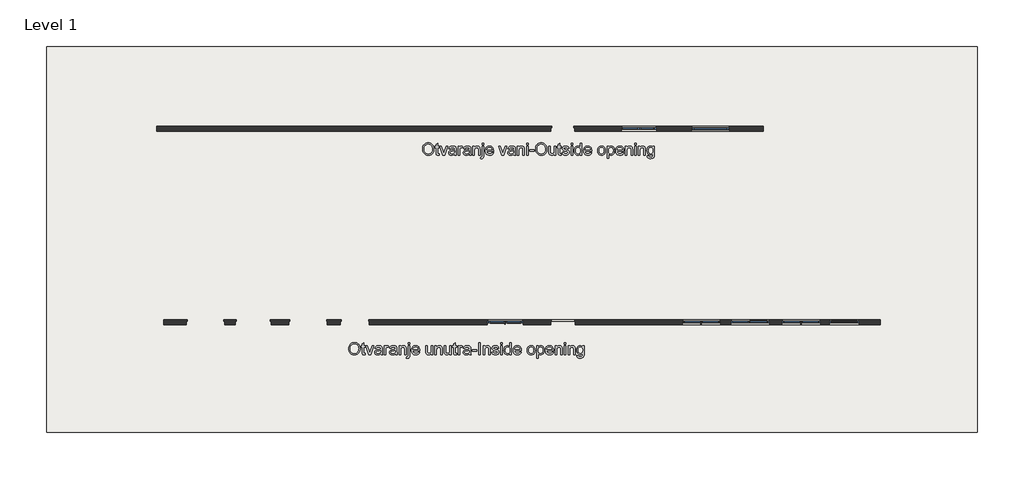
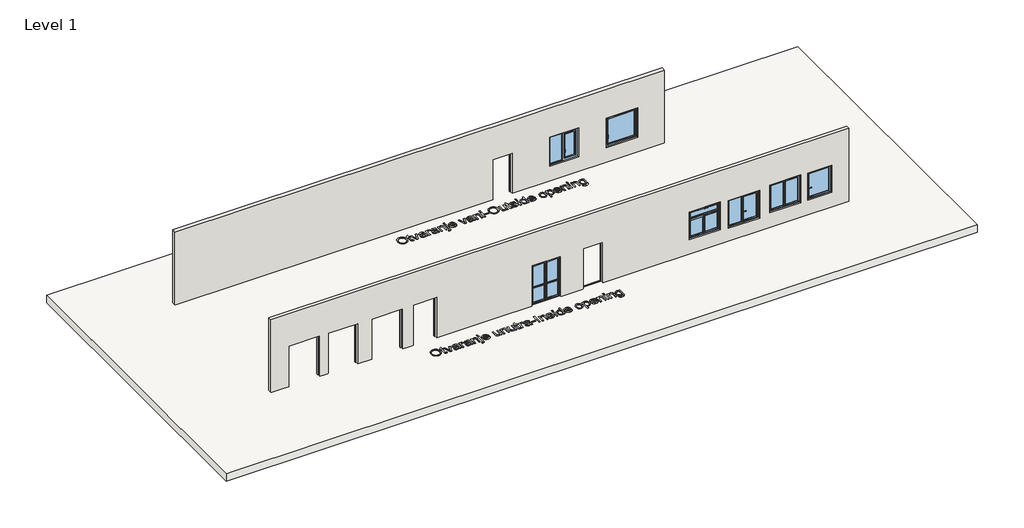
# One storey, incomplete: 7 windows, 2 proxies, 2 walls, 1 slab.
"""IFC4 building model written with IfcOpenShell, lengths in millimetres."""

from ifc_helpers import new_model, si_unit, frame, origin, place, context, project, spatial, polyline, outline, extrude, faceted_brep, transform, mapped, element, save
from components import tekst_tekst_52195aea, tekst_tekst_2_4f43fea5, window_d7b7a2f2, window_418a830e, window_308ad6bf, window_99a33fc7, window_7ea07653, window_e15212f5, window_3340940a

model = new_model("IFC4")

# Units and contexts
model_context = context("Model", 3, world=origin())
ifc_project = project(units=[si_unit("LENGTHUNIT", "METRE", prefix="MILLI")], contexts=[model_context])

# Site, building, storey
site = spatial("IfcSite", under=ifc_project)
building = spatial("IfcBuilding", under=site)
storey = spatial("IfcBuildingStorey", under=building, Name="Level 1", Elevation=0.0)

# Proxies
placement = place(None, origin())
tekst_tekst_shape = tekst_tekst_52195aea(model_context)
element("IfcBuildingElementProxy", 1, Name="tekst : tekst", ObjectType="tekst : tekst", at=placement, inside=storey, context=model_context, shape_type="MappedRepresentation", body=[
    mapped(tekst_tekst_shape, transform((-679.0711195, 9208.5752204, 0.0), x_axis=(1.0, 0.0, 0.0), y_axis=(0.0, 1.0, 0.0), z_axis=(0.0, 0.0, 1.0))),
])
tekst_tekst_2_shape = tekst_tekst_2_4f43fea5(model_context)
element("IfcBuildingElementProxy", 2, Name="tekst : tekst 2", ObjectType="tekst : tekst 2", at=placement, inside=storey, context=model_context, shape_type="MappedRepresentation", body=[
    mapped(tekst_tekst_2_shape, transform((-3776.147874, 845.4866489, 0.0), x_axis=(1.0, 0.0, 0.0), y_axis=(0.0, 1.0, 0.0), z_axis=(0.0, 0.0, 1.0))),
])

# Slab
element("IfcSlab", 3, ObjectType="Generic Floor - 400mm", at=placement, inside=storey, context=model_context, shape_type="SweptSolid", body=[
    extrude(outline(polyline([(21202.0200923, 13757.5691382), (21202.0200923, -2391.4247796), (-17797.9799077, -2391.4247796), (-17797.9799077, 13757.5691382), (21202.0200923, 13757.5691382)])), frame((0.0, 0.0, -400.0), z_axis=(0.0, 0.0, 1.0), x_axis=(1.0, 0.0, 0.0)), (0.0, 0.0, 1.0), 400.0),
])

# Walls
element("IfcWall", 4, ObjectType="Generic - 200mm", at=placement, inside=storey, context=model_context, shape_type="Brep", body=[
    faceted_brep([(-12879.0711195, 2308.5752204, 0.0), (-12879.0711195, 2308.5752204, 4000.0), (17120.9288805, 2308.5752204, 4000.0), (17120.9288805, 2308.5752204, 0.0), (-4309.0711195, 2308.5752204, 0.0), (-4309.0711195, 2308.5752204, 2170.0), (-5449.0711195, 2308.5752204, 2170.0), (-5449.0711195, 2308.5752204, 0.0), (-6069.0711195, 2308.5752204, 0.0), (-6069.0711195, 2308.5752204, 2170.0), (-7609.0711195, 2308.5752204, 2170.0), (-7609.0711195, 2308.5752204, 0.0), (-8419.0711195, 2308.5752204, 0.0), (-8419.0711195, 2308.5752204, 2180.0), (-9859.0711195, 2308.5752204, 2180.0), (-9859.0711195, 2308.5752204, 0.0), (-10369.0711195, 2308.5752204, 0.0), (-10369.0711195, 2308.5752204, 2180.0), (-11909.0711195, 2308.5752204, 2180.0), (-11909.0711195, 2308.5752204, 0.0), (15015.9288805, 2308.5752204, 2280.0), (15015.9288805, 2308.5752204, 810.0), (16225.9288805, 2308.5752204, 810.0), (16225.9288805, 2308.5752204, 2280.0), (14610.9288805, 2308.5752204, 820.0), (14610.9288805, 2308.5752204, 2300.0), (13030.9288805, 2308.5752204, 2300.0), (13030.9288805, 2308.5752204, 820.0), (10890.9288805, 2308.5752204, 2200.0), (10890.9288805, 2308.5752204, 720.0), (12470.9288805, 2308.5752204, 720.0), (12470.9288805, 2308.5752204, 2200.0), (2160.9288805, 2308.5752204, 20.0), (2160.9288805, 2308.5752204, 2200.0), (680.9288805, 2308.5752204, 2200.0), (680.9288805, 2308.5752204, 20.0), (3350.9288805, 2308.5752204, 2200.0), (3350.9288805, 2308.5752204, 20.0), (4330.9288805, 2308.5752204, 20.0), (4330.9288805, 2308.5752204, 2200.0), (10430.9288805, 2308.5752204, 800.0), (10430.9288805, 2308.5752204, 2280.0), (8850.9288805, 2308.5752204, 2280.0), (8850.9288805, 2308.5752204, 800.0), (-12879.0711195, 2108.5752204, 4000.0), (-12879.0711195, 2108.5752204, 0.0), (-11949.0711195, 2108.5752204, 0.0), (-11949.0711195, 2108.5752204, 2220.0), (-10329.0711195, 2108.5752204, 2220.0), (-10329.0711195, 2108.5752204, 0.0), (-9899.0711195, 2108.5752204, 0.0), (-9899.0711195, 2108.5752204, 2220.0), (-8379.0711195, 2108.5752204, 2220.0), (-8379.0711195, 2108.5752204, 0.0), (-7649.0711195, 2108.5752204, 0.0), (-7649.0711195, 2108.5752204, 2210.0), (-6029.0711195, 2108.5752204, 2210.0), (-6029.0711195, 2108.5752204, 0.0), (-5489.0711195, 2108.5752204, 0.0), (-5489.0711195, 2108.5752204, 2210.0), (-4269.0711195, 2108.5752204, 2210.0), (-4269.0711195, 2108.5752204, 0.0), (660.9288805, 2108.5752204, 0.0), (660.9288805, 2108.5752204, 2220.0), (2180.9288805, 2108.5752204, 2220.0), (2180.9288805, 2108.5752204, 0.0), (3330.9288805, 2108.5752204, 0.0), (3330.9288805, 2108.5752204, 2220.0), (4350.9288805, 2108.5752204, 2220.0), (4350.9288805, 2108.5752204, 0.0), (17120.9288805, 2108.5752204, 0.0), (17120.9288805, 2108.5752204, 4000.0), (14995.9288805, 2108.5752204, 800.0), (14995.9288805, 2108.5752204, 2290.0), (16245.9288805, 2108.5752204, 2290.0), (16245.9288805, 2108.5752204, 800.0), (14630.9288805, 2108.5752204, 2320.0), (14630.9288805, 2108.5752204, 800.0), (13010.9288805, 2108.5752204, 800.0), (13010.9288805, 2108.5752204, 2320.0), (10870.9288805, 2108.5752204, 700.0), (10870.9288805, 2108.5752204, 2220.0), (12490.9288805, 2108.5752204, 2220.0), (12490.9288805, 2108.5752204, 700.0), (10450.9288805, 2108.5752204, 2300.0), (10450.9288805, 2108.5752204, 780.0), (8830.9288805, 2108.5752204, 780.0), (8830.9288805, 2108.5752204, 2300.0), (14995.9288805, 2248.5752204, 2290.0), (14995.9288805, 2248.5752204, 800.0), (16245.9288805, 2248.5752204, 800.0), (16245.9288805, 2248.5752204, 2290.0), (15015.9288805, 2248.5752204, 810.0), (15015.9288805, 2248.5752204, 2280.0), (16225.9288805, 2248.5752204, 2280.0), (16225.9288805, 2248.5752204, 810.0), (14630.9288805, 2248.5752204, 2320.0), (13010.9288805, 2248.5752204, 2320.0), (13010.9288805, 2248.5752204, 800.0), (14630.9288805, 2248.5752204, 800.0), (14610.9288805, 2248.5752204, 820.0), (13030.9288805, 2248.5752204, 820.0), (13030.9288805, 2248.5752204, 2300.0), (14610.9288805, 2248.5752204, 2300.0), (10870.9288805, 2248.5752204, 2220.0), (10870.9288805, 2248.5752204, 700.0), (12490.9288805, 2248.5752204, 700.0), (12490.9288805, 2248.5752204, 2220.0), (10890.9288805, 2248.5752204, 720.0), (10890.9288805, 2248.5752204, 2200.0), (12470.9288805, 2248.5752204, 2200.0), (12470.9288805, 2248.5752204, 720.0), (-5449.0711195, 2248.5752204, 0.0), (-5449.0711195, 2248.5752204, 2170.0), (-4309.0711195, 2248.5752204, 2170.0), (-4309.0711195, 2248.5752204, 0.0), (-4269.0711195, 2248.5752204, 0.0), (-4269.0711195, 2248.5752204, 2210.0), (-5489.0711195, 2248.5752204, 2210.0), (-5489.0711195, 2248.5752204, 0.0), (-7609.0711195, 2248.5752204, 2170.0), (-6069.0711195, 2248.5752204, 2170.0), (-6069.0711195, 2248.5752204, 0.0), (-6029.0711195, 2248.5752204, 0.0), (-6029.0711195, 2248.5752204, 2210.0), (-7649.0711195, 2248.5752204, 2210.0), (-7649.0711195, 2248.5752204, 0.0), (-7609.0711195, 2248.5752204, 0.0), (-9899.0711195, 2248.5752204, 2220.0), (-9899.0711195, 2248.5752204, 0.0), (-9859.0711195, 2248.5752204, 0.0), (-9859.0711195, 2248.5752204, 2180.0), (-8419.0711195, 2248.5752204, 2180.0), (-8419.0711195, 2248.5752204, 0.0), (-8379.0711195, 2248.5752204, 0.0), (-8379.0711195, 2248.5752204, 2220.0), (-11949.0711195, 2248.5752204, 2220.0), (-11949.0711195, 2248.5752204, 0.0), (-11909.0711195, 2248.5752204, 0.0), (-11909.0711195, 2248.5752204, 2180.0), (-10369.0711195, 2248.5752204, 2180.0), (-10369.0711195, 2248.5752204, 0.0), (-10329.0711195, 2248.5752204, 0.0), (-10329.0711195, 2248.5752204, 2220.0), (2180.9288805, 2248.5752204, 0.0), (2180.9288805, 2248.5752204, 2220.0), (660.9288805, 2248.5752204, 2220.0), (660.9288805, 2248.5752204, 0.0), (2160.9288805, 2248.5752204, 2200.0), (2160.9288805, 2248.5752204, 20.0), (680.9288805, 2248.5752204, 20.0), (680.9288805, 2248.5752204, 2200.0), (3330.9288805, 2248.5752204, 2220.0), (3330.9288805, 2248.5752204, 0.0), (4350.9288805, 2248.5752204, 0.0), (4350.9288805, 2248.5752204, 2220.0), (3350.9288805, 2248.5752204, 20.0), (3350.9288805, 2248.5752204, 2200.0), (4330.9288805, 2248.5752204, 2200.0), (4330.9288805, 2248.5752204, 20.0), (10450.9288805, 2248.5752204, 2300.0), (8830.9288805, 2248.5752204, 2300.0), (8830.9288805, 2248.5752204, 780.0), (10450.9288805, 2248.5752204, 780.0), (10430.9288805, 2248.5752204, 800.0), (8850.9288805, 2248.5752204, 800.0), (8850.9288805, 2248.5752204, 2280.0), (10430.9288805, 2248.5752204, 2280.0)], [[[0, 1, 2, 3, 4, 5, 6, 7, 8, 9, 10, 11, 12, 13, 14, 15, 16, 17, 18, 19], [20, 21, 22, 23], [24, 25, 26, 27], [28, 29, 30, 31], [32, 33, 34, 35], [36, 37, 38, 39], [40, 41, 42, 43]], [[44, 45, 46, 47, 48, 49, 50, 51, 52, 53, 54, 55, 56, 57, 58, 59, 60, 61, 62, 63, 64, 65, 66, 67, 68, 69, 70, 71], [72, 73, 74, 75], [76, 77, 78, 79], [80, 81, 82, 83], [84, 85, 86, 87]], [[88, 89, 90, 91], [92, 93, 94, 95]], [[89, 88, 73, 72]], [[90, 89, 72, 75]], [[91, 90, 75, 74]], [[88, 91, 74, 73]], [[20, 93, 92, 21]], [[21, 92, 95, 22]], [[22, 95, 94, 23]], [[93, 20, 23, 94]], [[96, 97, 98, 99], [100, 101, 102, 103]], [[99, 77, 76, 96]], [[98, 78, 77, 99]], [[97, 79, 78, 98]], [[96, 76, 79, 97]], [[25, 24, 100, 103]], [[24, 27, 101, 100]], [[27, 26, 102, 101]], [[103, 102, 26, 25]], [[104, 105, 106, 107], [108, 109, 110, 111]], [[105, 104, 81, 80]], [[106, 105, 80, 83]], [[107, 106, 83, 82]], [[104, 107, 82, 81]], [[28, 109, 108, 29]], [[29, 108, 111, 30]], [[30, 111, 110, 31]], [[109, 28, 31, 110]], [[112, 113, 114, 115, 116, 117, 118, 119]], [[118, 59, 58, 119]], [[60, 117, 116, 61]], [[118, 117, 60, 59]], [[113, 112, 7, 6]], [[115, 114, 5, 4]], [[114, 113, 6, 5]], [[120, 121, 122, 123, 124, 125, 126, 127]], [[56, 124, 123, 57]], [[125, 55, 54, 126]], [[125, 124, 56, 55]], [[121, 9, 8, 122]], [[10, 120, 127, 11]], [[121, 120, 10, 9]], [[128, 129, 130, 131, 132, 133, 134, 135]], [[129, 128, 51, 50]], [[135, 134, 53, 52]], [[128, 135, 52, 51]], [[131, 130, 15, 14]], [[133, 132, 13, 12]], [[132, 131, 14, 13]], [[136, 137, 138, 139, 140, 141, 142, 143]], [[137, 136, 47, 46]], [[143, 142, 49, 48]], [[136, 143, 48, 47]], [[139, 138, 19, 18]], [[141, 140, 17, 16]], [[140, 139, 18, 17]], [[144, 145, 146, 147], [148, 149, 150, 151]], [[145, 144, 65, 64]], [[147, 146, 63, 62]], [[146, 145, 64, 63]], [[149, 148, 33, 32]], [[150, 149, 32, 35]], [[151, 150, 35, 34]], [[148, 151, 34, 33]], [[152, 153, 154, 155], [156, 157, 158, 159]], [[153, 152, 67, 66]], [[155, 154, 69, 68]], [[152, 155, 68, 67]], [[157, 156, 37, 36]], [[156, 159, 38, 37]], [[159, 158, 39, 38]], [[158, 157, 36, 39]], [[160, 161, 162, 163], [164, 165, 166, 167]], [[160, 163, 85, 84]], [[163, 162, 86, 85]], [[162, 161, 87, 86]], [[161, 160, 84, 87]], [[164, 167, 41, 40]], [[165, 164, 40, 43]], [[166, 165, 43, 42]], [[167, 166, 42, 41]], [[0, 19, 138, 137, 46, 45]], [[66, 65, 144, 147, 62, 61, 116, 115, 4, 3, 70, 69, 154, 153]], [[16, 15, 130, 129, 50, 49, 142, 141]], [[8, 7, 112, 119, 58, 57, 123, 122]], [[12, 11, 127, 126, 54, 53, 134, 133]], [[1, 0, 45, 44]], [[2, 1, 44, 71]], [[3, 2, 71, 70]]]),
])
element("IfcWall", 5, ObjectType="Generic - 200mm", at=placement, inside=storey, context=model_context, shape_type="Brep", body=[
    faceted_brep([(12220.9288805, 10208.5752204, 0.0), (12220.9288805, 10208.5752204, 4000.0), (-13179.0711195, 10208.5752204, 4000.0), (-13179.0711195, 10208.5752204, 0.0), (3320.9288805, 10208.5752204, 0.0), (3320.9288805, 10208.5752204, 2200.0), (4320.9288805, 10208.5752204, 2200.0), (4320.9288805, 10208.5752204, 0.0), (9210.9288805, 10208.5752204, 800.0), (9210.9288805, 10208.5752204, 2420.0), (10830.9288805, 10208.5752204, 2420.0), (10830.9288805, 10208.5752204, 800.0), (6270.9288805, 10208.5752204, 800.0), (6270.9288805, 10208.5752204, 2400.0), (7770.9288805, 10208.5752204, 2400.0), (7770.9288805, 10208.5752204, 800.0), (12220.9288805, 10408.5752204, 4000.0), (12220.9288805, 10408.5752204, 0.0), (4280.9288805, 10408.5752204, 0.0), (4280.9288805, 10408.5752204, 2160.0), (3360.9288805, 10408.5752204, 2160.0), (3360.9288805, 10408.5752204, 0.0), (-13179.0711195, 10408.5752204, 0.0), (-13179.0711195, 10408.5752204, 4000.0), (9230.9288805, 10408.5752204, 2400.0), (9230.9288805, 10408.5752204, 820.0), (10810.9288805, 10408.5752204, 820.0), (10810.9288805, 10408.5752204, 2400.0), (6290.9288805, 10408.5752204, 2380.0), (6290.9288805, 10408.5752204, 820.0), (7750.9288805, 10408.5752204, 820.0), (7750.9288805, 10408.5752204, 2380.0), (4320.9288805, 10348.5752204, 0.0), (4280.9288805, 10348.5752204, 0.0), (3360.9288805, 10348.5752204, 0.0), (3320.9288805, 10348.5752204, 0.0), (9210.9288805, 10348.5752204, 2420.0), (9210.9288805, 10348.5752204, 800.0), (10830.9288805, 10348.5752204, 800.0), (10830.9288805, 10348.5752204, 2420.0), (9230.9288805, 10348.5752204, 820.0), (9230.9288805, 10348.5752204, 2400.0), (10810.9288805, 10348.5752204, 2400.0), (10810.9288805, 10348.5752204, 820.0), (6270.9288805, 10356.5752204, 2400.0), (6270.9288805, 10356.5752204, 800.0), (7770.9288805, 10356.5752204, 800.0), (7770.9288805, 10356.5752204, 2400.0), (6290.9288805, 10356.5752204, 820.0), (6290.9288805, 10356.5752204, 2380.0), (7750.9288805, 10356.5752204, 2380.0), (7750.9288805, 10356.5752204, 820.0), (3320.9288805, 10348.5752204, 2200.0), (3360.9288805, 10348.5752204, 2160.0), (4280.9288805, 10348.5752204, 2160.0), (4320.9288805, 10348.5752204, 2200.0)], [[[0, 1, 2, 3, 4, 5, 6, 7], [8, 9, 10, 11], [12, 13, 14, 15]], [[16, 17, 18, 19, 20, 21, 22, 23], [24, 25, 26, 27], [28, 29, 30, 31]], [[17, 0, 7, 32, 33, 18]], [[3, 22, 21, 34, 35, 4]], [[1, 0, 17, 16]], [[2, 1, 16, 23]], [[3, 2, 23, 22]], [[36, 37, 38, 39], [40, 41, 42, 43]], [[37, 36, 9, 8]], [[38, 37, 8, 11]], [[39, 38, 11, 10]], [[36, 39, 10, 9]], [[24, 41, 40, 25]], [[25, 40, 43, 26]], [[26, 43, 42, 27]], [[41, 24, 27, 42]], [[44, 45, 46, 47], [48, 49, 50, 51]], [[45, 44, 13, 12]], [[46, 45, 12, 15]], [[47, 46, 15, 14]], [[44, 47, 14, 13]], [[28, 49, 48, 29]], [[29, 48, 51, 30]], [[30, 51, 50, 31]], [[49, 28, 31, 50]], [[52, 35, 34, 53, 54, 33, 32, 55]], [[35, 52, 5, 4]], [[55, 32, 7, 6]], [[52, 55, 6, 5]], [[53, 34, 21, 20]], [[33, 54, 19, 18]], [[54, 53, 20, 19]]]),
])

# Windows
window_shape = window_d7b7a2f2(model_context)
element("IfcWindow", 6, ObjectType="900.04.004 : 900.04.004", at=placement, inside=storey, context=model_context, shape_type="MappedRepresentation", body=[
    mapped(window_shape, transform((15620.9288805, 2208.5752204, 0.0), x_axis=(1.0, 0.0, 0.0), y_axis=(0.0, 1.0, 0.0), z_axis=(0.0, 0.0, 1.0))),
])
window_2_shape = window_418a830e(model_context)
element("IfcWindow", 7, ObjectType="900.04.011 : 900.04.011", at=placement, inside=storey, context=model_context, shape_type="MappedRepresentation", body=[
    mapped(window_2_shape, transform((1420.9288805, 2208.5752204, -800.0), x_axis=(-1.0, 0.0, 0.0), y_axis=(0.0, -1.0, 0.0), z_axis=(0.0, 0.0, 1.0))),
])
window_3_shape = window_308ad6bf(model_context)
element("IfcWindow", 8, ObjectType="Dvikrilni prozor s nadsvjetlom : Dvikrilni prozor s nadsvjetlom", at=placement, inside=storey, context=model_context, shape_type="MappedRepresentation", body=[
    mapped(window_3_shape, transform((9640.9288805, 2208.5752204, -20.0), x_axis=(-1.0, 0.0, 0.0), y_axis=(0.0, -1.0, 0.0), z_axis=(0.0, 0.0, 1.0))),
])
window_4_shape = window_99a33fc7(model_context)
element("IfcWindow", 9, ObjectType="900.04.031 : 900.04.031", at=placement, inside=storey, context=model_context, shape_type="MappedRepresentation", body=[
    mapped(window_4_shape, transform((10020.9288805, 10308.5752204, 0.0), x_axis=(1.0, 0.0, 0.0), y_axis=(0.0, 1.0, 0.0), z_axis=(0.0, 0.0, 1.0))),
])
window_5_shape = window_7ea07653(model_context)
element("IfcWindow", 10, ObjectType="900.04.033 : 900.04.033", at=placement, inside=storey, context=model_context, shape_type="MappedRepresentation", body=[
    mapped(window_5_shape, transform((7020.9288805, 10308.5752204, 0.0), x_axis=(1.0, 0.0, 0.0), y_axis=(0.0, 1.0, 0.0), z_axis=(0.0, 0.0, 1.0))),
])
window_6_shape = window_e15212f5(model_context)
element("IfcWindow", 11, ObjectType="900.04.006 : 900.04.006", at=placement, inside=storey, context=model_context, shape_type="MappedRepresentation", body=[
    mapped(window_6_shape, transform((11680.9288805, 2208.5752204, -100.0), x_axis=(1.0, 0.0, 0.0), y_axis=(0.0, 1.0, 0.0), z_axis=(0.0, 0.0, 1.0))),
])
window_7_shape = window_3340940a(model_context)
element("IfcWindow", 12, ObjectType="900.04.005 : 900.04.005", at=placement, inside=storey, context=model_context, shape_type="MappedRepresentation", body=[
    mapped(window_7_shape, transform((13820.9288805, 2208.5752204, 0.0), x_axis=(-1.0, 0.0, 0.0), y_axis=(0.0, -1.0, 0.0), z_axis=(0.0, 0.0, 1.0))),
])

save(model, "model.ifc")
